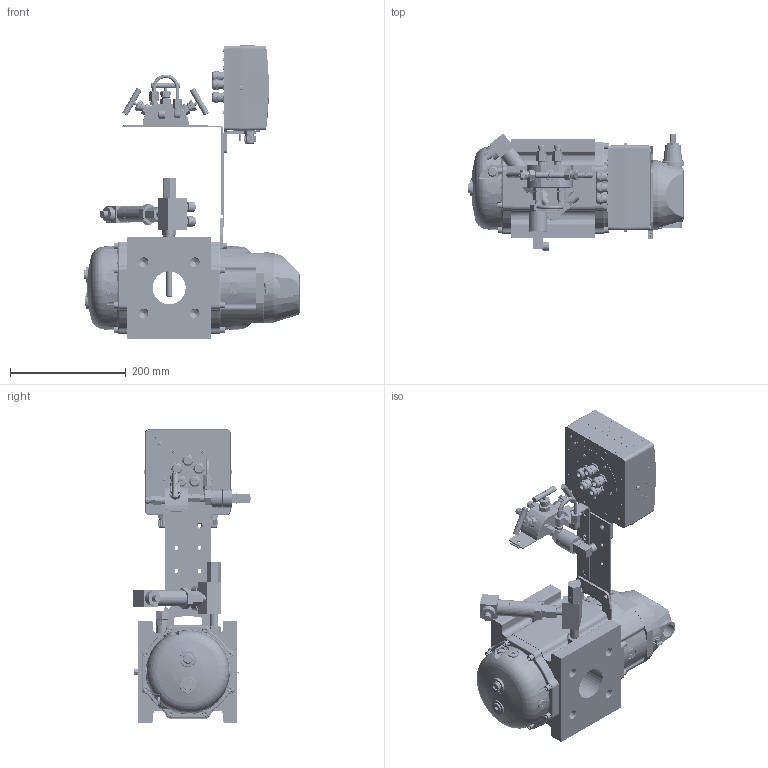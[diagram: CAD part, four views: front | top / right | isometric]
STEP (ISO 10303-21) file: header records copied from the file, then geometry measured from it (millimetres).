
FILE_DESCRIPTION(('STEP AP242'), '1');
FILE_NAME('ÝÐ-245-G65 áåç èñòîðèè', '', ('UNSPECIFIED'), ('UNSPECIFIED'), 'C3D Converter', 'C3D Toolkit', '');
FILE_SCHEMA(('AP242_MANAGED_MODEL_BASED_3D_ENGINEERING_MIM_LF { 1 0 10303 442 1 1 4 }'));
Length unit declared in the file: millimetre
Bounding box: 375 x 202.92 x 507.47 mm (x, y, z)
Volume: 7691236.2 mm3; surface area: 1033306.9 mm2
Topology: 165 solids, 168 shells, 33500 faces, 90892 edges, 60022 vertices
Faces by surface type: plane 15527, extrusion 11492, cylinder 4371, cone 798, bspline 750, torus 488, sphere 74
Full cylindrical faces by diameter (mm): 1.5 x1, 1.95 x3, 2 x12, 2.459 x22, 2.5 x4, 2.791 x2, 2.9 x4, 3 x30, 3.2 x13, 3.242 x12, 3.3 x6, 3.45 x7, 3.5 x16, 4 x22, 4.1 x8, 4.134 x1, 4.2 x12, 4.4 x1, 4.917 x19, 5 x22, 5.2 x4, 5.5 x20, 5.6 x20, 6 x31, 6.2 x2, 6.4 x6, 6.5 x24, 6.6 x16, 7 x22, 8 x22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
Entity records: 1444924 total; most frequent: CARTESIAN_POINT 402261, ORIENTED_EDGE 178578, DIRECTION 127865, EDGE_CURVE 89289, VECTOR 63397, VERTEX_POINT 59947, LINE 51905, EDGE_LOOP 37705
